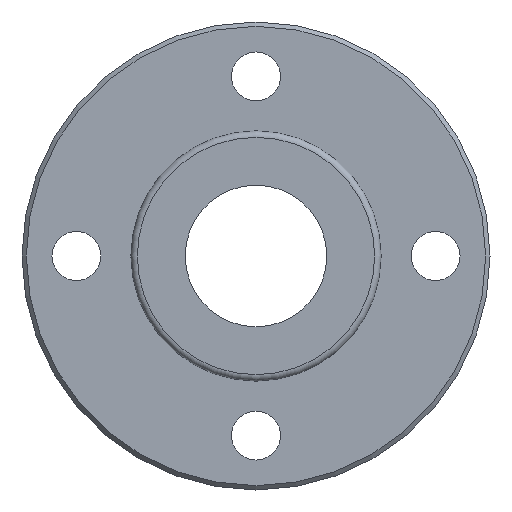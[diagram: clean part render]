
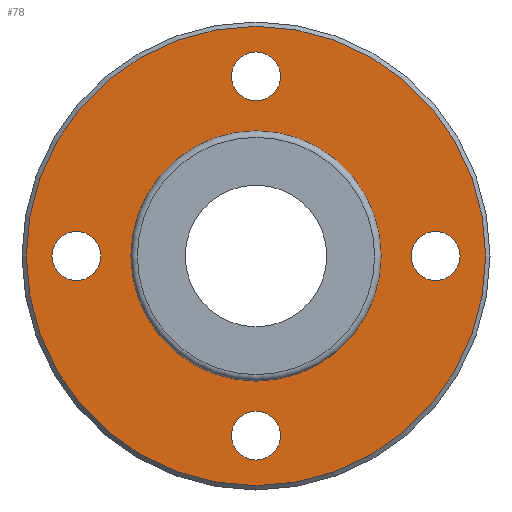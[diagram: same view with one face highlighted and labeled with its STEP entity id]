
A CAD part, left-side view. The second image highlights one B-rep face of the part: STEP entity #78.
In plain terms, the highlighted planar face has unit normal (-1, 0, 0).
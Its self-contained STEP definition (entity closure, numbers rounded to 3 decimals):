
#78=ADVANCED_FACE('',(#113,#114,#115,#116,#117,#118),#119,.T.);
#113=FACE_OUTER_BOUND('',#205,.T.);
#114=FACE_BOUND('',#206,.T.);
#115=FACE_BOUND('',#207,.T.);
#116=FACE_BOUND('',#208,.T.);
#117=FACE_BOUND('',#209,.T.);
#118=FACE_BOUND('',#210,.T.);
#119=PLANE('',#211);
#205=EDGE_LOOP('',(#303));
#206=EDGE_LOOP('',(#304));
#207=EDGE_LOOP('',(#305));
#208=EDGE_LOOP('',(#306));
#209=EDGE_LOOP('',(#307));
#210=EDGE_LOOP('',(#308));
#211=AXIS2_PLACEMENT_3D('',#309,#310,#311);
#303=ORIENTED_EDGE('',*,*,#442,.T.);
#304=ORIENTED_EDGE('',*,*,#443,.F.);
#305=ORIENTED_EDGE('',*,*,#444,.T.);
#306=ORIENTED_EDGE('',*,*,#445,.T.);
#307=ORIENTED_EDGE('',*,*,#446,.T.);
#308=ORIENTED_EDGE('',*,*,#447,.T.);
#309=CARTESIAN_POINT('',(-6.0,16.125,0.0));
#310=DIRECTION('',(-1.0,0.0,0.));
#311=DIRECTION('',(0.,0.0,1.0));
#442=EDGE_CURVE('',#480,#480,#481,.T.);
#443=EDGE_CURVE('',#482,#482,#483,.T.);
#444=EDGE_CURVE('',#484,#484,#485,.T.);
#445=EDGE_CURVE('',#486,#486,#487,.T.);
#446=EDGE_CURVE('',#488,#488,#489,.T.);
#447=EDGE_CURVE('',#490,#490,#491,.T.);
#480=VERTEX_POINT('',#544);
#481=CIRCLE('',#545,21.1);
#482=VERTEX_POINT('',#546);
#483=CIRCLE('',#547,11.15);
#484=VERTEX_POINT('',#548);
#485=CIRCLE('',#549,2.25);
#486=VERTEX_POINT('',#550);
#487=CIRCLE('',#551,2.25);
#488=VERTEX_POINT('',#552);
#489=CIRCLE('',#553,2.25);
#490=VERTEX_POINT('',#554);
#491=CIRCLE('',#555,2.25);
#544=CARTESIAN_POINT('',(-6.0,21.1,0.0));
#545=AXIS2_PLACEMENT_3D('',#614,#615,#616);
#546=CARTESIAN_POINT('',(-6.0,11.15,0.0));
#547=AXIS2_PLACEMENT_3D('',#617,#618,#619);
#548=CARTESIAN_POINT('',(-6.0,16.5,2.25));
#549=AXIS2_PLACEMENT_3D('',#620,#621,#622);
#550=CARTESIAN_POINT('',(-6.0,0.0,18.75));
#551=AXIS2_PLACEMENT_3D('',#623,#624,#625);
#552=CARTESIAN_POINT('',(-6.0,-16.5,2.25));
#553=AXIS2_PLACEMENT_3D('',#626,#627,#628);
#554=CARTESIAN_POINT('',(-6.0,0.0,-14.25));
#555=AXIS2_PLACEMENT_3D('',#629,#630,#631);
#614=CARTESIAN_POINT('',(-6.0,0.0,0.0));
#615=DIRECTION('',(-1.0,0.0,0.));
#616=DIRECTION('',(0.0,1.0,0.0));
#617=CARTESIAN_POINT('',(-6.0,0.0,0.0));
#618=DIRECTION('',(-1.0,0.0,0.));
#619=DIRECTION('',(0.0,1.0,0.0));
#620=CARTESIAN_POINT('',(-6.0,16.5,0.));
#621=DIRECTION('',(1.0,0.0,0.));
#622=DIRECTION('',(0.,0.0,-1.0));
#623=CARTESIAN_POINT('',(-6.0,0.0,16.5));
#624=DIRECTION('',(1.0,0.0,0.));
#625=DIRECTION('',(0.,0.0,-1.0));
#626=CARTESIAN_POINT('',(-6.0,-16.5,0.));
#627=DIRECTION('',(1.0,0.0,0.));
#628=DIRECTION('',(0.,0.0,-1.0));
#629=CARTESIAN_POINT('',(-6.0,0.0,-16.5));
#630=DIRECTION('',(1.0,0.0,0.));
#631=DIRECTION('',(0.,0.0,-1.0));
